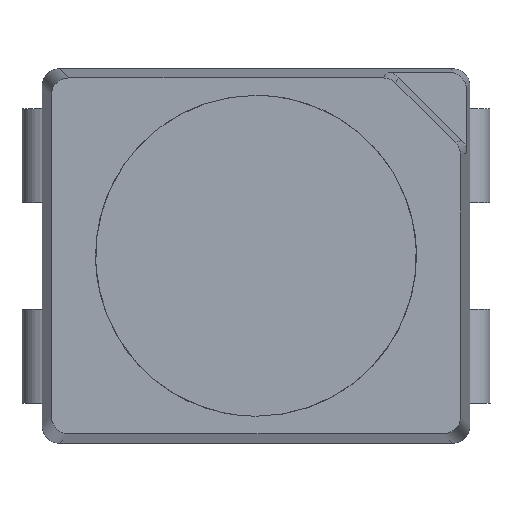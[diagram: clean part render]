
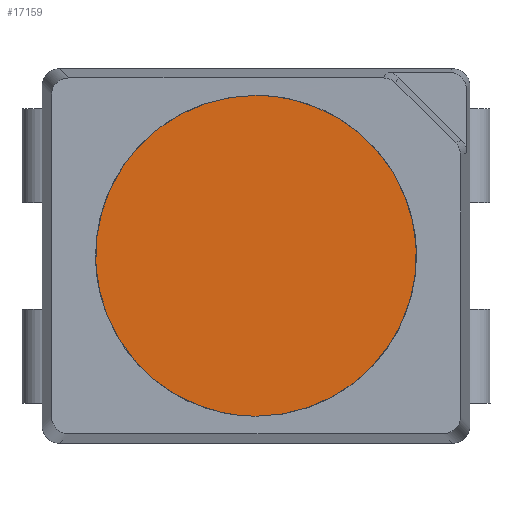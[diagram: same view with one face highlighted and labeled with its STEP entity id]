
A CAD part, top view. The second image highlights one B-rep face of the part: STEP entity #17159.
In plain terms, the highlighted planar face has unit normal (0, 0, 1).
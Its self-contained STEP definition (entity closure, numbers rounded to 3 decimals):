
#1531 = EDGE_LOOP ( 'NONE', ( #9767, #16803 ) ) ;
#1728 = B_SPLINE_CURVE_WITH_KNOTS ( 'NONE', 3,
 ( #14033, #16045, #2561, #12596, #8309, #8021, #2362, #12410, #9527, #18260 ),
 .UNSPECIFIED., .F., .F.,
 ( 4, 2, 2, 2, 4 ),
 ( 0., 0.25, 0.5, 0.75, 1. ),
 .UNSPECIFIED. ) ;
#2167 = DIRECTION ( 'NONE',  ( 0., 0., 1. ) ) ;
#2297 = CARTESIAN_POINT ( 'NONE',  ( -0.626, -1.071, 0. ) ) ;
#2362 = CARTESIAN_POINT ( 'NONE',  ( -0.626, 1.071, 0. ) ) ;
#2561 = CARTESIAN_POINT ( 'NONE',  ( 1.071, 0.626, 0. ) ) ;
#2624 = VERTEX_POINT ( 'NONE', #3419 ) ;
#3419 = CARTESIAN_POINT ( 'NONE',  ( 1.2, 0., 0. ) ) ;
#5540 = CARTESIAN_POINT ( 'NONE',  ( -1.2, 0., 0. ) ) ;
#6244 = CARTESIAN_POINT ( 'NONE',  ( 1.071, -0.626, 0. ) ) ;
#6484 = DIRECTION ( 'NONE',  ( 0., 1., 0. ) ) ;
#7072 = EDGE_CURVE ( 'NONE', #9281, #2624, #14181, .T. ) ;
#7293 = EDGE_CURVE ( 'NONE', #2624, #9281, #1728, .T. ) ;
#8021 = CARTESIAN_POINT ( 'NONE',  ( -0.314, 1.2, 0. ) ) ;
#8266 = FACE_OUTER_BOUND ( 'NONE', #1531, .T. ) ;
#8309 = CARTESIAN_POINT ( 'NONE',  ( 0.314, 1.2, 0. ) ) ;
#9082 = CARTESIAN_POINT ( 'NONE',  ( -0.314, -1.2, 0. ) ) ;
#9281 = VERTEX_POINT ( 'NONE', #5540 ) ;
#9460 = CARTESIAN_POINT ( 'NONE',  ( -1.2, -0.314, 0. ) ) ;
#9527 = CARTESIAN_POINT ( 'NONE',  ( -1.2, 0.314, 0. ) ) ;
#9767 = ORIENTED_EDGE ( 'NONE', *, *, #7072, .T. ) ;
#9949 = PLANE ( 'NONE',  #16170 ) ;
#10600 = CARTESIAN_POINT ( 'NONE',  ( 0.314, -1.2, 0. ) ) ;
#12410 = CARTESIAN_POINT ( 'NONE',  ( -1.071, 0.626, 0. ) ) ;
#12530 = CARTESIAN_POINT ( 'NONE',  ( 1.2, 0., 0. ) ) ;
#12596 = CARTESIAN_POINT ( 'NONE',  ( 0.626, 1.071, 0. ) ) ;
#14033 = CARTESIAN_POINT ( 'NONE',  ( 1.2, 0., 0. ) ) ;
#14160 = CARTESIAN_POINT ( 'NONE',  ( 5.078, -3.3, 0. ) ) ;
#14181 = B_SPLINE_CURVE_WITH_KNOTS ( 'NONE', 3,
 ( #16772, #9460, #15323, #2297, #9082, #10600, #14937, #6244, #16490, #12530 ),
 .UNSPECIFIED., .F., .F.,
 ( 4, 2, 2, 2, 4 ),
 ( 0., 0.25, 0.5, 0.75, 1. ),
 .UNSPECIFIED. ) ;
#14937 = CARTESIAN_POINT ( 'NONE',  ( 0.626, -1.071, 0. ) ) ;
#15323 = CARTESIAN_POINT ( 'NONE',  ( -1.071, -0.626, 0. ) ) ;
#16045 = CARTESIAN_POINT ( 'NONE',  ( 1.2, 0.314, 0. ) ) ;
#16170 = AXIS2_PLACEMENT_3D ( 'NONE', #14160, #2167, #6484 ) ;
#16490 = CARTESIAN_POINT ( 'NONE',  ( 1.2, -0.314, 0. ) ) ;
#16772 = CARTESIAN_POINT ( 'NONE',  ( -1.2, 0., 0. ) ) ;
#16803 = ORIENTED_EDGE ( 'NONE', *, *, #7293, .T. ) ;
#17159 = ADVANCED_FACE ( 'NONE', ( #8266 ), #9949, .T. ) ;
#18260 = CARTESIAN_POINT ( 'NONE',  ( -1.2, 0., 0. ) ) ;
